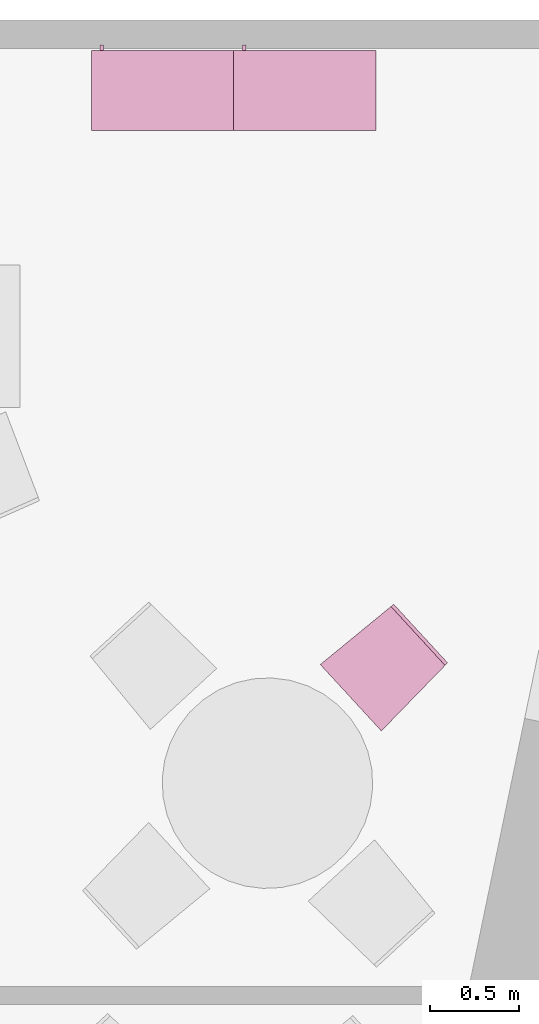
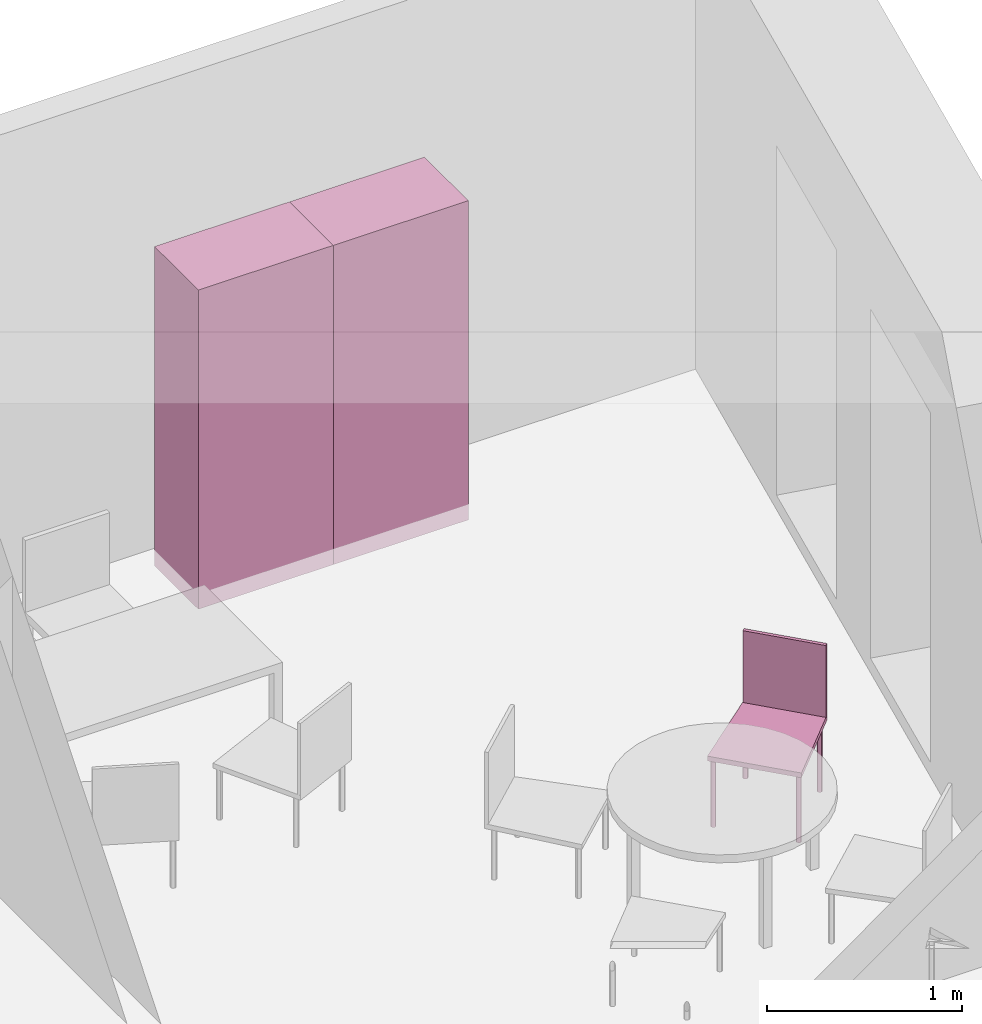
"""IFC4 building model written with IfcOpenShell, lengths in metres."""

from ifc_helpers import new_model, entity, si_unit, converted_unit, derived_unit, frame, origin, place, context, subcontext, project, spatial, faceted_brep, element, save


model = new_model("IFC4")

# Units and contexts
model_context = context("Model", 3, precision=1e-05, world=origin())
body_context = subcontext(model_context, "Body", "Model", "MODEL_VIEW")
ifc_project = project(units=[si_unit("LENGTHUNIT", "METRE"), si_unit("AREAUNIT", "SQUARE_METRE"), si_unit("VOLUMEUNIT", "CUBIC_METRE"), si_unit("MASSUNIT", "GRAM", prefix="KILO"), converted_unit("PLANEANGLEUNIT", "DEGREE", entity("IfcPlaneAngleMeasure", 0.0174532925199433), si_unit("PLANEANGLEUNIT", "RADIAN"), dimensions=[0, 0, 0, 0, 0, 0, 0]), derived_unit("THERMALTRANSMITTANCEUNIT", [(si_unit("POWERUNIT", "WATT"), 1), (si_unit("THERMODYNAMICTEMPERATUREUNIT", "KELVIN"), -1), (si_unit("LENGTHUNIT", "METRE"), -2)]), derived_unit("VOLUMETRICFLOWRATEUNIT", [(si_unit("LENGTHUNIT", "METRE"), 3), (converted_unit("TIMEUNIT", "hour", entity("IfcTimeMeasure", 3600.0), si_unit("TIMEUNIT", "SECOND"), dimensions=[0, 0, 1, 0, 0, 0, 0]), -1), (si_unit("LENGTHUNIT", "METRE"), -1)])], contexts=[model_context])

# Building, storeys
building_placement = place(None, origin())
building = spatial("IfcBuilding", under=ifc_project, at=building_placement, Name="HABITATGE PLURIFAMILIAR", CompositionType="ELEMENT")
storey_1_placement = place(building_placement, frame((0.0, 0.0, 12.27)))
storey_1 = spatial("IfcBuildingStorey", under=building, at=storey_1_placement, Name="PLANTA TERCERA", CompositionType="ELEMENT", Elevation=12.27)
storey_2_placement = place(storey_1_placement, frame((0.0, 0.0, 9.26)))
storey_2 = spatial("IfcBuildingStorey", under=storey_1, at=storey_2_placement, Name="NOU", CompositionType="PARTIAL")

# Furniture
furniture_1_placement = place(storey_2_placement, frame((424.886095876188, 24.2363502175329, -9.36074913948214)))
element("IfcFurniture", 1, at=furniture_1_placement, inside=storey_2, Name="Cadira confident_P3", context=body_context, shape_type="Brep", body=[
    faceted_brep([(0.0247551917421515, 0.383021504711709, 0.0), (0.0230003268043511, 0.381097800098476, 0.0), (0.021606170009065, 0.378898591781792, 0.0), (0.0206150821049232, 0.376490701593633, 0.0), (0.0200571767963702, 0.373947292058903, 0.0), (0.0199494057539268, 0.371345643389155, 0.0), (0.0202950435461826, 0.368764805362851, 0.0), (0.0210835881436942, 0.366283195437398, 0.0), (0.0222910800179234, 0.363976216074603, 0.0), (0.0238808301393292, 0.361913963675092, 0.0), (0.0258045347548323, 0.360159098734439, 0.0), (0.0280037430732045, 0.358764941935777, 0.0), (0.030411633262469, 0.357773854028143, 0.0), (0.0329550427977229, 0.357215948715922, 0.0), (0.0355566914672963, 0.357108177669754, 0.0), (0.0381375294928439, 0.357453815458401, 0.0), (0.0406191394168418, 0.358242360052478, 0.0), (0.0429261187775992, 0.359449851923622, 0.0), (0.0449883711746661, 0.361039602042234, 0.0), (0.0467432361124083, 0.362963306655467, 0.0), (0.0481373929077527, 0.365162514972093, 0.0), (0.0491284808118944, 0.367570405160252, 0.0), (0.0496863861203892, 0.37011381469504, 0.0), (0.0497941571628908, 0.372715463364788, 0.0), (0.049448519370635, 0.375296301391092, 0.0), (0.0486599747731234, 0.377777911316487, 0.0), (0.047452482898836, 0.38008489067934, 0.0), (0.0458627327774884, 0.382147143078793, 0.0), (0.0439390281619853, 0.383902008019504, 0.0), (0.0417398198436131, 0.385296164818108, 0.0), (0.0393319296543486, 0.386287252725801, 0.0), (0.0367885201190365, 0.386845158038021, 0.0), (0.0341868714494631, 0.386952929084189, 0.0), (0.0316060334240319, 0.386607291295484, 0.0), (0.0291244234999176, 0.385818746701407, 0.0), (0.0268174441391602, 0.384611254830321, 0.0), (0.0247551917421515, 0.383021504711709, 0.448281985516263), (0.0268174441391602, 0.384611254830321, 0.448281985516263), (0.0291244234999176, 0.385818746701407, 0.448281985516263), (0.0316060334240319, 0.386607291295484, 0.448281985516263), (0.0341868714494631, 0.386952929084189, 0.448281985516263), (0.0367885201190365, 0.386845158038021, 0.448281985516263), (0.0393319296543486, 0.386287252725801, 0.448281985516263), (0.0417398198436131, 0.385296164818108, 0.448281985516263), (0.0439390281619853, 0.383902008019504, 0.448281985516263), (0.0458627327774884, 0.382147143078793, 0.448281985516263), (0.047452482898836, 0.38008489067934, 0.448281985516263), (0.0486599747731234, 0.377777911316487, 0.448281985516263), (0.049448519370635, 0.375296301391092, 0.448281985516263), (0.0497941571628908, 0.372715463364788, 0.448281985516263), (0.0496863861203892, 0.37011381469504, 0.448281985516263), (0.0491284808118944, 0.367570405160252, 0.448281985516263), (0.0481373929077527, 0.365162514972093, 0.448281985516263), (0.0467432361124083, 0.362963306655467, 0.448281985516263), (0.0449883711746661, 0.361039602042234, 0.448281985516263), (0.0429261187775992, 0.359449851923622, 0.448281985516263), (0.0406191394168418, 0.358242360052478, 0.448281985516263), (0.0381375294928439, 0.357453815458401, 0.448281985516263), (0.0355566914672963, 0.357108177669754, 0.448281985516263), (0.0329550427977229, 0.357215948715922, 0.448281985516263), (0.030411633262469, 0.357773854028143, 0.448281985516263), (0.0280037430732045, 0.358764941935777, 0.448281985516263), (0.0258045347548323, 0.360159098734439, 0.448281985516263), (0.0238808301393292, 0.361913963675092, 0.448281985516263), (0.0222910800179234, 0.363976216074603, 0.448281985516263), (0.0210835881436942, 0.366283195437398, 0.448281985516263), (0.0202950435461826, 0.368764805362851, 0.448281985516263), (0.0199494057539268, 0.371345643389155, 0.448281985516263), (0.0200571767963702, 0.373947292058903, 0.448281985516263), (0.0206150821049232, 0.376490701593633, 0.448281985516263), (0.021606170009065, 0.378898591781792, 0.448281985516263), (0.0230003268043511, 0.381097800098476, 0.448281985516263)], [[[0, 1, 2, 3, 4, 5, 6, 7, 8, 9, 10, 11, 12, 13, 14, 15, 16, 17, 18, 19, 20, 21, 22, 23, 24, 25, 26, 27, 28, 29, 30, 31, 32, 33, 34, 35]], [[36, 37, 38, 39, 40, 41, 42, 43, 44, 45, 46, 47, 48, 49, 50, 51, 52, 53, 54, 55, 56, 57, 58, 59, 60, 61, 62, 63, 64, 65, 66, 67, 68, 69, 70, 71]], [[35, 37, 36, 0]], [[34, 38, 37, 35]], [[33, 39, 38, 34]], [[32, 40, 39, 33]], [[31, 41, 40, 32]], [[30, 42, 41, 31]], [[29, 43, 42, 30]], [[28, 44, 43, 29]], [[27, 45, 44, 28]], [[26, 46, 45, 27]], [[25, 47, 46, 26]], [[24, 48, 47, 25]], [[23, 49, 48, 24]], [[22, 50, 49, 23]], [[21, 51, 50, 22]], [[20, 52, 51, 21]], [[19, 53, 52, 20]], [[18, 54, 53, 19]], [[17, 55, 54, 18]], [[16, 56, 55, 17]], [[15, 57, 56, 16]], [[14, 58, 57, 15]], [[13, 59, 58, 14]], [[12, 60, 59, 13]], [[11, 61, 60, 12]], [[10, 62, 61, 11]], [[9, 63, 62, 10]], [[8, 64, 63, 9]], [[7, 65, 64, 8]], [[6, 66, 65, 7]], [[5, 67, 66, 6]], [[4, 68, 67, 5]], [[3, 69, 68, 4]], [[2, 70, 69, 3]], [[1, 71, 70, 2]], [[0, 36, 71, 1]]], orient=[[False], [False], [False], [False], [False], [False], [False], [False], [False], [False], [False], [False], [False], [False], [False], [False], [False], [False], [False], [False], [False], [False], [False], [False], [False], [False], [False], [False], [False], [False], [False], [False], [False], [False], [False], [False], [False], [False]]),
    faceted_brep([(0.383868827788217, 0.675633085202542, 0.0), (0.382113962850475, 0.673709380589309, 0.0), (0.380719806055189, 0.671510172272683, 0.0), (0.379728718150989, 0.669102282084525, 0.0), (0.379170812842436, 0.666558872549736, 0.0), (0.379063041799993, 0.663957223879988, 0.0), (0.379408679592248, 0.661376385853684, 0.0), (0.38019722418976, 0.658894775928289, 0.0), (0.381404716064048, 0.656587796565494, 0.0), (0.382994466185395, 0.654525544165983, 0.0), (0.384918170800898, 0.65277067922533, 0.0), (0.38711737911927, 0.651376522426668, 0.0), (0.389525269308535, 0.650385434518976, 0.0), (0.392068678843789, 0.649827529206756, 0.0), (0.394670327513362, 0.649719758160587, 0.0), (0.397251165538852, 0.650065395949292, 0.0), (0.399732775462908, 0.650853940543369, 0.0), (0.402039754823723, 0.652061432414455, 0.0), (0.404102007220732, 0.653651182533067, 0.0), (0.405856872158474, 0.655574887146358, 0.0), (0.407251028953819, 0.657774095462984, 0.0), (0.408242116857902, 0.660181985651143, 0.0), (0.408800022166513, 0.662725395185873, 0.0), (0.408907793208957, 0.665327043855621, 0.0), (0.408562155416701, 0.667907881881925, 0.0), (0.407773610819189, 0.670389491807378, 0.0), (0.406566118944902, 0.672696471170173, 0.0), (0.404976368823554, 0.674758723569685, 0.0), (0.403052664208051, 0.676513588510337, 0.0), (0.400853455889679, 0.677907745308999, 0.0), (0.398445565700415, 0.678898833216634, 0.0), (0.395902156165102, 0.679456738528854, 0.0), (0.393300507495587, 0.679564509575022, 0.0), (0.390719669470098, 0.679218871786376, 0.0), (0.388238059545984, 0.678430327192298, 0.0), (0.385931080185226, 0.677222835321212, 0.0), (0.383868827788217, 0.675633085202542, 0.448281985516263), (0.385931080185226, 0.677222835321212, 0.448281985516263), (0.388238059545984, 0.678430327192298, 0.448281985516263), (0.390719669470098, 0.679218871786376, 0.448281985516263), (0.393300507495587, 0.679564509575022, 0.448281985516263), (0.395902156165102, 0.679456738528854, 0.448281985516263), (0.398445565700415, 0.678898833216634, 0.448281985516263), (0.400853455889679, 0.677907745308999, 0.448281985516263), (0.403052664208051, 0.676513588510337, 0.448281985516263), (0.404976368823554, 0.674758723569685, 0.448281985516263), (0.406566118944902, 0.672696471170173, 0.448281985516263), (0.407773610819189, 0.670389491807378, 0.448281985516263), (0.408562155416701, 0.667907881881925, 0.448281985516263), (0.408907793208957, 0.665327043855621, 0.448281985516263), (0.408800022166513, 0.662725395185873, 0.448281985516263), (0.408242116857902, 0.660181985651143, 0.448281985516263), (0.407251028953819, 0.657774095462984, 0.448281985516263), (0.405856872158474, 0.655574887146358, 0.448281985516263), (0.404102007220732, 0.653651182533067, 0.448281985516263), (0.402039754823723, 0.652061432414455, 0.448281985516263), (0.399732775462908, 0.650853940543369, 0.448281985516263), (0.397251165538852, 0.650065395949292, 0.448281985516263), (0.394670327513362, 0.649719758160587, 0.448281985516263), (0.392068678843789, 0.649827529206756, 0.448281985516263), (0.389525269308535, 0.650385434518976, 0.448281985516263), (0.38711737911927, 0.651376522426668, 0.448281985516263), (0.384918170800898, 0.65277067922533, 0.448281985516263), (0.382994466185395, 0.654525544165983, 0.448281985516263), (0.381404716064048, 0.656587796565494, 0.448281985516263), (0.38019722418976, 0.658894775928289, 0.448281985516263), (0.379408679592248, 0.661376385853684, 0.448281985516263), (0.379063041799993, 0.663957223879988, 0.448281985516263), (0.379170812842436, 0.666558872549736, 0.448281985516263), (0.379728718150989, 0.669102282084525, 0.448281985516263), (0.380719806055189, 0.671510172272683, 0.448281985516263), (0.382113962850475, 0.673709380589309, 0.448281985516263)], [[[0, 1, 2, 3, 4, 5, 6, 7, 8, 9, 10, 11, 12, 13, 14, 15, 16, 17, 18, 19, 20, 21, 22, 23, 24, 25, 26, 27, 28, 29, 30, 31, 32, 33, 34, 35]], [[36, 37, 38, 39, 40, 41, 42, 43, 44, 45, 46, 47, 48, 49, 50, 51, 52, 53, 54, 55, 56, 57, 58, 59, 60, 61, 62, 63, 64, 65, 66, 67, 68, 69, 70, 71]], [[35, 37, 36, 0]], [[34, 38, 37, 35]], [[33, 39, 38, 34]], [[32, 40, 39, 33]], [[31, 41, 40, 32]], [[30, 42, 41, 31]], [[29, 43, 42, 30]], [[28, 44, 43, 29]], [[27, 45, 44, 28]], [[26, 46, 45, 27]], [[25, 47, 46, 26]], [[24, 48, 47, 25]], [[23, 49, 48, 24]], [[22, 50, 49, 23]], [[21, 51, 50, 22]], [[20, 52, 51, 21]], [[19, 53, 52, 20]], [[18, 54, 53, 19]], [[17, 55, 54, 18]], [[16, 56, 55, 17]], [[15, 57, 56, 16]], [[14, 58, 57, 15]], [[13, 59, 58, 14]], [[12, 60, 59, 13]], [[11, 61, 60, 12]], [[10, 62, 61, 11]], [[9, 63, 62, 10]], [[8, 64, 63, 9]], [[7, 65, 64, 8]], [[6, 66, 65, 7]], [[5, 67, 66, 6]], [[4, 68, 67, 5]], [[3, 69, 68, 4]], [[2, 70, 69, 3]], [[1, 71, 70, 2]], [[0, 36, 71, 1]]], orient=[[False], [False], [False], [False], [False], [False], [False], [False], [False], [False], [False], [False], [False], [False], [False], [False], [False], [False], [False], [False], [False], [False], [False], [False], [False], [False], [False], [False], [False], [False], [False], [False], [False], [False], [False], [False], [False], [False]]),
    faceted_brep([(0.336083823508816, 0.0443852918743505, 0.0), (0.334328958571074, 0.0424615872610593, 0.0), (0.332934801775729, 0.0402623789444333, 0.0), (0.331943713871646, 0.0378544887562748, 0.0), (0.331385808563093, 0.0353110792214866, 0.0), (0.331278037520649, 0.0327094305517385, 0.0), (0.331623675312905, 0.0301285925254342, 0.0), (0.332412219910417, 0.0276469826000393, 0.0), (0.333619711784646, 0.0253400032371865, 0.0), (0.335209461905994, 0.023277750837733, 0.0), (0.337133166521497, 0.0215228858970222, 0.0), (0.339332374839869, 0.0201287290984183, 0.0), (0.341740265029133, 0.0191376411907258, 0.0), (0.344283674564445, 0.0185797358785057, 0.0), (0.346885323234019, 0.0184719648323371, 0.0), (0.349466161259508, 0.0188176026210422, 0.0), (0.351947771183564, 0.0196061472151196, 0.0), (0.354254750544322, 0.0208136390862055, 0.0), (0.356317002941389, 0.0224033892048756, 0.0), (0.358071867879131, 0.0243270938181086, 0.0), (0.359466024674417, 0.0265263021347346, 0.0), (0.360457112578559, 0.0289341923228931, 0.0), (0.361015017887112, 0.0314776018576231, 0.0), (0.361122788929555, 0.0340792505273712, 0.0), (0.360777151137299, 0.0366600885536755, 0.0), (0.359988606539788, 0.0391416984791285, 0.0), (0.358781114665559, 0.0414486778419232, 0.0), (0.357191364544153, 0.0435109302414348, 0.0), (0.355267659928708, 0.0452657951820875, 0.0), (0.353068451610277, 0.0466599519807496, 0.0), (0.350660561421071, 0.0476510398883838, 0.0), (0.348117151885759, 0.0482089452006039, 0.0), (0.345515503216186, 0.0483167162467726, 0.0), (0.342934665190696, 0.0479710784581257, 0.0), (0.34045305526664, 0.0471825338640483, 0.0), (0.338146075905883, 0.0459750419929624, 0.0), (0.336083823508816, 0.0443852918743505, 0.448281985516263), (0.338146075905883, 0.0459750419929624, 0.448281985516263), (0.34045305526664, 0.0471825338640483, 0.448281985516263), (0.342934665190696, 0.0479710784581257, 0.448281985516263), (0.345515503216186, 0.0483167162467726, 0.448281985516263), (0.348117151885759, 0.0482089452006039, 0.448281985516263), (0.350660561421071, 0.0476510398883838, 0.448281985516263), (0.353068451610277, 0.0466599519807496, 0.448281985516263), (0.355267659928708, 0.0452657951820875, 0.448281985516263), (0.357191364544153, 0.0435109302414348, 0.448281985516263), (0.358781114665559, 0.0414486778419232, 0.448281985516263), (0.359988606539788, 0.0391416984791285, 0.448281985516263), (0.360777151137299, 0.0366600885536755, 0.448281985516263), (0.361122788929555, 0.0340792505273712, 0.448281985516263), (0.361015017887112, 0.0314776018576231, 0.448281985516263), (0.360457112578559, 0.0289341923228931, 0.448281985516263), (0.359466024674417, 0.0265263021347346, 0.448281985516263), (0.358071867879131, 0.0243270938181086, 0.448281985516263), (0.356317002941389, 0.0224033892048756, 0.448281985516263), (0.354254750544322, 0.0208136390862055, 0.448281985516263), (0.351947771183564, 0.0196061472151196, 0.448281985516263), (0.349466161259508, 0.0188176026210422, 0.448281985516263), (0.346885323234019, 0.0184719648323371, 0.448281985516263), (0.344283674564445, 0.0185797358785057, 0.448281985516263), (0.341740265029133, 0.0191376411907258, 0.448281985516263), (0.339332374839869, 0.0201287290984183, 0.448281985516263), (0.337133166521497, 0.0215228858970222, 0.448281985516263), (0.335209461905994, 0.023277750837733, 0.448281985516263), (0.333619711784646, 0.0253400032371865, 0.448281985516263), (0.332412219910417, 0.0276469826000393, 0.448281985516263), (0.331623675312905, 0.0301285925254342, 0.448281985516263), (0.331278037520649, 0.0327094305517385, 0.448281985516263), (0.331385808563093, 0.0353110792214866, 0.448281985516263), (0.331943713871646, 0.0378544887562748, 0.448281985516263), (0.332934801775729, 0.0402623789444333, 0.448281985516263), (0.334328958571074, 0.0424615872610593, 0.448281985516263)], [[[0, 1, 2, 3, 4, 5, 6, 7, 8, 9, 10, 11, 12, 13, 14, 15, 16, 17, 18, 19, 20, 21, 22, 23, 24, 25, 26, 27, 28, 29, 30, 31, 32, 33, 34, 35]], [[36, 37, 38, 39, 40, 41, 42, 43, 44, 45, 46, 47, 48, 49, 50, 51, 52, 53, 54, 55, 56, 57, 58, 59, 60, 61, 62, 63, 64, 65, 66, 67, 68, 69, 70, 71]], [[35, 37, 36, 0]], [[34, 38, 37, 35]], [[33, 39, 38, 34]], [[32, 40, 39, 33]], [[31, 41, 40, 32]], [[30, 42, 41, 31]], [[29, 43, 42, 30]], [[28, 44, 43, 29]], [[27, 45, 44, 28]], [[26, 46, 45, 27]], [[25, 47, 46, 26]], [[24, 48, 47, 25]], [[23, 49, 48, 24]], [[22, 50, 49, 23]], [[21, 51, 50, 22]], [[20, 52, 51, 21]], [[19, 53, 52, 20]], [[18, 54, 53, 19]], [[17, 55, 54, 18]], [[16, 56, 55, 17]], [[15, 57, 56, 16]], [[14, 58, 57, 15]], [[13, 59, 58, 14]], [[12, 60, 59, 13]], [[11, 61, 60, 12]], [[10, 62, 61, 11]], [[9, 63, 62, 10]], [[8, 64, 63, 9]], [[7, 65, 64, 8]], [[6, 66, 65, 7]], [[5, 67, 66, 6]], [[4, 68, 67, 5]], [[3, 69, 68, 4]], [[2, 70, 69, 3]], [[1, 71, 70, 2]], [[0, 36, 71, 1]]], orient=[[False], [False], [False], [False], [False], [False], [False], [False], [False], [False], [False], [False], [False], [False], [False], [False], [False], [False], [False], [False], [False], [False], [False], [False], [False], [False], [False], [False], [False], [False], [False], [False], [False], [False], [False], [False], [False], [False]]),
    faceted_brep([(0.654589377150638, 0.381166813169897, 0.0), (0.652834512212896, 0.379243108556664, 0.0), (0.651440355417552, 0.37704390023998, 0.0), (0.65044926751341, 0.37463601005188, 0.0), (0.649891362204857, 0.372092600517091, 0.0), (0.649783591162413, 0.369490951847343, 0.0), (0.650129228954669, 0.366910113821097, 0.0), (0.650917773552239, 0.364428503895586, 0.0), (0.652125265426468, 0.362121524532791, 0.0), (0.653715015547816, 0.36005927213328, 0.0), (0.655638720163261, 0.358304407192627, 0.0), (0.657837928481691, 0.356910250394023, 0.0), (0.660245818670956, 0.355919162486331, 0.0), (0.662789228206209, 0.35536125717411, 0.0), (0.665390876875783, 0.355253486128, 0.0), (0.667971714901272, 0.355599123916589, 0.0), (0.670453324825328, 0.356387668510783, 0.0), (0.672760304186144, 0.357595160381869, 0.0), (0.674822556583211, 0.359184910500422, 0.0), (0.676577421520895, 0.361108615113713, 0.0), (0.677971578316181, 0.363307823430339, 0.0), (0.678962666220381, 0.36571571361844, 0.0), (0.679520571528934, 0.368259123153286, 0.0), (0.679628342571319, 0.370860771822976, 0.0), (0.679282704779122, 0.37344160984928, 0.0), (0.67849416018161, 0.375923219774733, 0.0), (0.677286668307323, 0.378230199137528, 0.0), (0.675696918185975, 0.38029245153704, 0.0), (0.673773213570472, 0.382047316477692, 0.0), (0.6715740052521, 0.383441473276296, 0.0), (0.669166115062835, 0.384432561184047, 0.0), (0.666622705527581, 0.384990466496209, 0.0), (0.664021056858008, 0.385098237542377, 0.0), (0.66144021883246, 0.38475259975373, 0.0), (0.658958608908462, 0.383964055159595, 0.0), (0.656651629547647, 0.382756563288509, 0.0), (0.654589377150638, 0.381166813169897, 0.448281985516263), (0.656651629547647, 0.382756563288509, 0.448281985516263), (0.658958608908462, 0.383964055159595, 0.448281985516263), (0.66144021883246, 0.38475259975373, 0.448281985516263), (0.664021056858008, 0.385098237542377, 0.448281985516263), (0.666622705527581, 0.384990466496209, 0.448281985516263), (0.669166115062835, 0.384432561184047, 0.448281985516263), (0.6715740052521, 0.383441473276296, 0.448281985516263), (0.673773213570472, 0.382047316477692, 0.448281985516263), (0.675696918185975, 0.38029245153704, 0.448281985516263), (0.677286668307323, 0.378230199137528, 0.448281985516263), (0.67849416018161, 0.375923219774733, 0.448281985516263), (0.679282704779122, 0.37344160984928, 0.448281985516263), (0.679628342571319, 0.370860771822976, 0.448281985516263), (0.679520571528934, 0.368259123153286, 0.448281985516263), (0.678962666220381, 0.36571571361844, 0.448281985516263), (0.677971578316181, 0.363307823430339, 0.448281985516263), (0.676577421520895, 0.361108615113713, 0.448281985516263), (0.674822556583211, 0.359184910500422, 0.448281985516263), (0.672760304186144, 0.357595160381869, 0.448281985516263), (0.670453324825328, 0.356387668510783, 0.448281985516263), (0.667971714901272, 0.355599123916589, 0.448281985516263), (0.665390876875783, 0.355253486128, 0.448281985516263), (0.662789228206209, 0.35536125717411, 0.448281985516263), (0.660245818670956, 0.355919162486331, 0.448281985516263), (0.657837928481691, 0.356910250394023, 0.448281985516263), (0.655638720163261, 0.358304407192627, 0.448281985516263), (0.653715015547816, 0.36005927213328, 0.448281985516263), (0.652125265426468, 0.362121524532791, 0.448281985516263), (0.650917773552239, 0.364428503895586, 0.448281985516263), (0.650129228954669, 0.366910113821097, 0.448281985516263), (0.649783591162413, 0.369490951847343, 0.448281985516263), (0.649891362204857, 0.372092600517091, 0.448281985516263), (0.65044926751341, 0.37463601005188, 0.448281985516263), (0.651440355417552, 0.37704390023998, 0.448281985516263), (0.652834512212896, 0.379243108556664, 0.448281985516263)], [[[0, 1, 2, 3, 4, 5, 6, 7, 8, 9, 10, 11, 12, 13, 14, 15, 16, 17, 18, 19, 20, 21, 22, 23, 24, 25, 26, 27, 28, 29, 30, 31, 32, 33, 34, 35]], [[36, 37, 38, 39, 40, 41, 42, 43, 44, 45, 46, 47, 48, 49, 50, 51, 52, 53, 54, 55, 56, 57, 58, 59, 60, 61, 62, 63, 64, 65, 66, 67, 68, 69, 70, 71]], [[35, 37, 36, 0]], [[34, 38, 37, 35]], [[33, 39, 38, 34]], [[32, 40, 39, 33]], [[31, 41, 40, 32]], [[30, 42, 41, 31]], [[29, 43, 42, 30]], [[28, 44, 43, 29]], [[27, 45, 44, 28]], [[26, 46, 45, 27]], [[25, 47, 46, 26]], [[24, 48, 47, 25]], [[23, 49, 48, 24]], [[22, 50, 49, 23]], [[21, 51, 50, 22]], [[20, 52, 51, 21]], [[19, 53, 52, 20]], [[18, 54, 53, 19]], [[17, 55, 54, 18]], [[16, 56, 55, 17]], [[15, 57, 56, 16]], [[14, 58, 57, 15]], [[13, 59, 58, 14]], [[12, 60, 59, 13]], [[11, 61, 60, 12]], [[10, 62, 61, 11]], [[9, 63, 62, 10]], [[8, 64, 63, 9]], [[7, 65, 64, 8]], [[6, 66, 65, 7]], [[5, 67, 66, 6]], [[4, 68, 67, 5]], [[3, 69, 68, 4]], [[2, 70, 69, 3]], [[1, 71, 70, 2]], [[0, 36, 71, 1]]], orient=[[False], [False], [False], [False], [False], [False], [False], [False], [False], [False], [False], [False], [False], [False], [False], [False], [False], [False], [False], [False], [False], [False], [False], [False], [False], [False], [False], [False], [False], [False], [False], [False], [False], [False], [False], [False], [False], [False]]),
    faceted_brep([(0.714593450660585, 0.382554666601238, 0.418281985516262), (0.412391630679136, 0.711263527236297, 0.418281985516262), (0.0, 0.372878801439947, 0.418281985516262), (0.342809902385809, 0.0, 0.418281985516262), (0.342809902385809, 0.0, 0.448281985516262), (0.0, 0.372878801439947, 0.448281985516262), (0.412391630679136, 0.711263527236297, 0.448281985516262), (0.714593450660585, 0.382554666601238, 0.448281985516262)], [[[0, 1, 2, 3]], [[4, 5, 6, 7]], [[3, 4, 7, 0]], [[2, 5, 4, 3]], [[1, 6, 5, 2]], [[0, 7, 6, 1]]], orient=[[False], [False], [False], [False], [False], [False]]),
    faceted_brep([(0.699870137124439, 0.369018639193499, 0.448281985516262), (0.714593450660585, 0.382554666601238, 0.448281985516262), (0.412391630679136, 0.711263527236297, 0.448281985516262), (0.39766831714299, 0.697727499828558, 0.448281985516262), (0.39766831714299, 0.697727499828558, 0.89828198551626), (0.412391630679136, 0.711263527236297, 0.89828198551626), (0.714593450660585, 0.382554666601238, 0.89828198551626), (0.699870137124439, 0.369018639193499, 0.89828198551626)], [[[0, 1, 2, 3]], [[4, 5, 6, 7]], [[3, 4, 7, 0]], [[2, 5, 4, 3]], [[1, 6, 5, 2]], [[0, 7, 6, 1]]], orient=[[False], [False], [False], [False], [False], [False]]),
])
furniture_2_placement = place(storey_2_placement, frame((423.600166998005, 27.6065107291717, -9.3599999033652)))
element("IfcFurniture", 2, at=furniture_2_placement, inside=storey_2, Name="Armai 80x45_P3", context=body_context, shape_type="Brep", body=[
    faceted_brep([(0.78, 0.430000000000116, 1.98), (0.78, 0.450000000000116, 1.98), (0.78, 0.450000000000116, 0.02), (0.78, 0.430000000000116, 0.02), (0.0, 0.450000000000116, 0.02), (0.0, 0.430000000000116, 0.02), (0.0, 0.450000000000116, 1.98), (0.0, 0.430000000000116, 1.98)], [[[0, 1, 2, 3]], [[3, 2, 4, 5]], [[5, 4, 6, 7]], [[7, 6, 1, 0]], [[0, 3, 5, 7]], [[1, 6, 4, 2]]], orient=[[False], [False], [False], [False], [False], [False]]),
    faceted_brep([(0.8, 0.450000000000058, 1.98), (0.78, 0.450000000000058, 1.98), (0.78, 0.450000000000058, 0.02), (0.8, 0.450000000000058, 0.02), (0.78, 0.0, 0.02), (0.8, 0.0, 0.02), (0.78, 0.0, 1.98), (0.8, 0.0, 1.98)], [[[0, 1, 2, 3]], [[3, 2, 4, 5]], [[5, 4, 6, 7]], [[7, 6, 1, 0]], [[0, 3, 5, 7]], [[1, 6, 4, 2]]], orient=[[False], [False], [False], [False], [False], [False]]),
    faceted_brep([(0.0, 0.450000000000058, 0.02), (0.0, 0.450000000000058, 0.0), (0.8, 0.450000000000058, 0.0), (0.8, 0.450000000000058, 0.02), (0.8, 0.0, 0.0), (0.8, 0.0, 0.02), (0.0, 0.0, 0.0), (0.0, 0.0, 0.02)], [[[0, 1, 2, 3]], [[3, 2, 4, 5]], [[5, 4, 6, 7]], [[7, 6, 1, 0]], [[0, 3, 5, 7]], [[1, 6, 4, 2]]], orient=[[False], [False], [False], [False], [False], [False]]),
    faceted_brep([(0.0, 0.450000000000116, 2.0), (0.0, 0.450000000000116, 1.98), (0.8, 0.450000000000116, 1.98), (0.8, 0.450000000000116, 2.0), (0.8, 0.0, 1.98), (0.8, 0.0, 2.0), (0.0, 0.0, 1.98), (0.0, 0.0, 2.0)], [[[0, 1, 2, 3]], [[3, 2, 4, 5]], [[5, 4, 6, 7]], [[7, 6, 1, 0]], [[0, 3, 5, 7]], [[1, 6, 4, 2]]], orient=[[False], [False], [False], [False], [False], [False]]),
    faceted_brep([(0.02, 0.450000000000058, 1.98), (0.0, 0.450000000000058, 1.98), (0.0, 0.450000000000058, 0.02), (0.02, 0.450000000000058, 0.02), (0.0, 0.0, 0.02), (0.02, 0.0, 0.02), (0.0, 0.0, 1.98), (0.02, 0.0, 1.98)], [[[0, 1, 2, 3]], [[3, 2, 4, 5]], [[5, 4, 6, 7]], [[7, 6, 1, 0]], [[0, 3, 5, 7]], [[1, 6, 4, 2]]], orient=[[False], [False], [False], [False], [False], [False]]),
    faceted_brep([(0.78, 0.0, 1.98), (0.78, 0.0200000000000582, 1.98), (0.78, 0.0200000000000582, 0.02), (0.78, 0.0, 0.02), (0.02, 0.0200000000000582, 0.02), (0.02, 0.0, 0.02), (0.02, 0.0200000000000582, 1.98), (0.02, 0.0, 1.98)], [[[0, 1, 2, 3]], [[3, 2, 4, 5]], [[5, 4, 6, 7]], [[7, 6, 1, 0]], [[0, 3, 5, 7]], [[1, 6, 4, 2]]], orient=[[False], [False], [False], [False], [False], [False]]),
    faceted_brep([(0.0, 0.430000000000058, 1.98), (0.0, 0.450000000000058, 1.98), (0.0, 0.450000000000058, 0.02), (0.0, 0.430000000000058, 0.02), (0.02, 0.450000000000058, 0.02), (0.02, 0.430000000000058, 0.02), (0.02, 0.450000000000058, 1.98), (0.02, 0.430000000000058, 1.98)], [[[0, 1, 2, 3]], [[3, 2, 4, 5]], [[5, 4, 6, 7]], [[7, 6, 1, 0]], [[0, 3, 5, 7]], [[1, 6, 4, 2]]], orient=[[False], [False], [False], [False], [False], [False]]),
    faceted_brep([(0.07, 0.450000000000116, 1.01806481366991), (0.07, 0.480000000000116, 1.01806481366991), (0.07, 0.480000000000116, 0.918064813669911), (0.07, 0.450000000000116, 0.918064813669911), (0.05, 0.480000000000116, 0.918064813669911), (0.05, 0.450000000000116, 0.918064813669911), (0.05, 0.480000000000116, 1.01806481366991), (0.05, 0.450000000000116, 1.01806481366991)], [[[0, 1, 2, 3]], [[3, 2, 4, 5]], [[5, 4, 6, 7]], [[7, 6, 1, 0]], [[0, 3, 5, 7]], [[1, 6, 4, 2]]], orient=[[False], [False], [False], [False], [False], [False]]),
])
furniture_3_placement = place(storey_2_placement, frame((424.400166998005, 27.6065107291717, -9.3599999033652)))
element("IfcFurniture", 3, at=furniture_3_placement, inside=storey_2, Name="Armai 80x45_P3", context=body_context, shape_type="Brep", body=[
    faceted_brep([(0.78, 0.430000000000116, 1.98), (0.78, 0.450000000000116, 1.98), (0.78, 0.450000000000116, 0.02), (0.78, 0.430000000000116, 0.02), (0.0, 0.450000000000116, 0.02), (0.0, 0.430000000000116, 0.02), (0.0, 0.450000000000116, 1.98), (0.0, 0.430000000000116, 1.98)], [[[0, 1, 2, 3]], [[3, 2, 4, 5]], [[5, 4, 6, 7]], [[7, 6, 1, 0]], [[0, 3, 5, 7]], [[1, 6, 4, 2]]], orient=[[False], [False], [False], [False], [False], [False]]),
    faceted_brep([(0.8, 0.450000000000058, 1.98), (0.78, 0.450000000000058, 1.98), (0.78, 0.450000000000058, 0.02), (0.8, 0.450000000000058, 0.02), (0.78, 0.0, 0.02), (0.8, 0.0, 0.02), (0.78, 0.0, 1.98), (0.8, 0.0, 1.98)], [[[0, 1, 2, 3]], [[3, 2, 4, 5]], [[5, 4, 6, 7]], [[7, 6, 1, 0]], [[0, 3, 5, 7]], [[1, 6, 4, 2]]], orient=[[False], [False], [False], [False], [False], [False]]),
    faceted_brep([(0.0, 0.450000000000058, 0.02), (0.0, 0.450000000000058, 0.0), (0.8, 0.450000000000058, 0.0), (0.8, 0.450000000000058, 0.02), (0.8, 0.0, 0.0), (0.8, 0.0, 0.02), (0.0, 0.0, 0.0), (0.0, 0.0, 0.02)], [[[0, 1, 2, 3]], [[3, 2, 4, 5]], [[5, 4, 6, 7]], [[7, 6, 1, 0]], [[0, 3, 5, 7]], [[1, 6, 4, 2]]], orient=[[False], [False], [False], [False], [False], [False]]),
    faceted_brep([(0.0, 0.450000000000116, 2.0), (0.0, 0.450000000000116, 1.98), (0.8, 0.450000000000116, 1.98), (0.8, 0.450000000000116, 2.0), (0.8, 0.0, 1.98), (0.8, 0.0, 2.0), (0.0, 0.0, 1.98), (0.0, 0.0, 2.0)], [[[0, 1, 2, 3]], [[3, 2, 4, 5]], [[5, 4, 6, 7]], [[7, 6, 1, 0]], [[0, 3, 5, 7]], [[1, 6, 4, 2]]], orient=[[False], [False], [False], [False], [False], [False]]),
    faceted_brep([(0.02, 0.450000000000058, 1.98), (0.0, 0.450000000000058, 1.98), (0.0, 0.450000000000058, 0.02), (0.02, 0.450000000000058, 0.02), (0.0, 0.0, 0.02), (0.02, 0.0, 0.02), (0.0, 0.0, 1.98), (0.02, 0.0, 1.98)], [[[0, 1, 2, 3]], [[3, 2, 4, 5]], [[5, 4, 6, 7]], [[7, 6, 1, 0]], [[0, 3, 5, 7]], [[1, 6, 4, 2]]], orient=[[False], [False], [False], [False], [False], [False]]),
    faceted_brep([(0.78, 0.0, 1.98), (0.78, 0.0200000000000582, 1.98), (0.78, 0.0200000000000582, 0.02), (0.78, 0.0, 0.02), (0.02, 0.0200000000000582, 0.02), (0.02, 0.0, 0.02), (0.02, 0.0200000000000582, 1.98), (0.02, 0.0, 1.98)], [[[0, 1, 2, 3]], [[3, 2, 4, 5]], [[5, 4, 6, 7]], [[7, 6, 1, 0]], [[0, 3, 5, 7]], [[1, 6, 4, 2]]], orient=[[False], [False], [False], [False], [False], [False]]),
    faceted_brep([(0.0, 0.430000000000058, 1.98), (0.0, 0.450000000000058, 1.98), (0.0, 0.450000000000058, 0.02), (0.0, 0.430000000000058, 0.02), (0.02, 0.450000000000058, 0.02), (0.02, 0.430000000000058, 0.02), (0.02, 0.450000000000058, 1.98), (0.02, 0.430000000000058, 1.98)], [[[0, 1, 2, 3]], [[3, 2, 4, 5]], [[5, 4, 6, 7]], [[7, 6, 1, 0]], [[0, 3, 5, 7]], [[1, 6, 4, 2]]], orient=[[False], [False], [False], [False], [False], [False]]),
    faceted_brep([(0.07, 0.450000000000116, 1.01806481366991), (0.07, 0.480000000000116, 1.01806481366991), (0.07, 0.480000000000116, 0.918064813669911), (0.07, 0.450000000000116, 0.918064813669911), (0.05, 0.480000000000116, 0.918064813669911), (0.05, 0.450000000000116, 0.918064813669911), (0.05, 0.480000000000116, 1.01806481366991), (0.05, 0.450000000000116, 1.01806481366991)], [[[0, 1, 2, 3]], [[3, 2, 4, 5]], [[5, 4, 6, 7]], [[7, 6, 1, 0]], [[0, 3, 5, 7]], [[1, 6, 4, 2]]], orient=[[False], [False], [False], [False], [False], [False]]),
])

save(model, "model.ifc")
